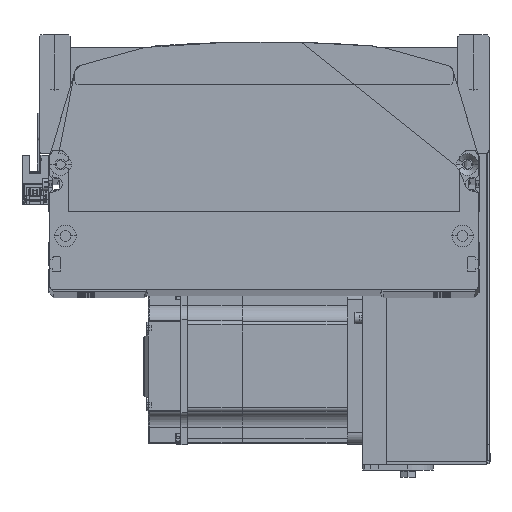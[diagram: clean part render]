
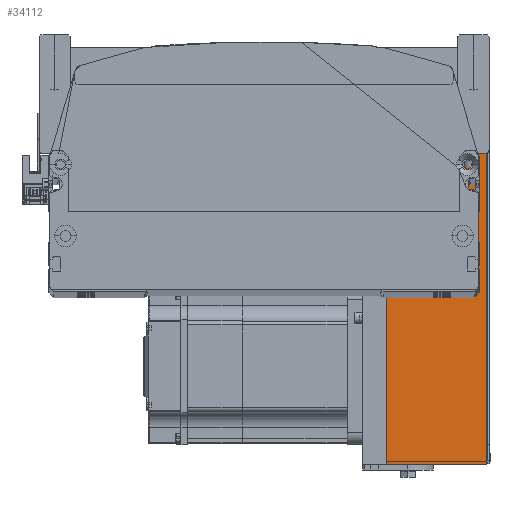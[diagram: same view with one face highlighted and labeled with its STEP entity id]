
A CAD part, top view. The second image highlights one B-rep face of the part: STEP entity #34112.
In plain terms, the highlighted planar face has unit normal (0, 0, 1) as drawn and (0, 1, 0) by its records, which use the part's own axes.
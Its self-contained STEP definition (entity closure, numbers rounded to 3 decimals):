
#154 = CARTESIAN_POINT ( 'NONE',  ( 102.5, 54., 63.3 ) ) ;
#2196 = CARTESIAN_POINT ( 'NONE',  ( 102.5, 54., 63.3 ) ) ;
#2503 = LINE ( 'NONE', #46634, #18907 ) ;
#3593 = EDGE_CURVE ( 'NONE', #27088, #20594, #40563, .T. ) ;
#3618 = AXIS2_PLACEMENT_3D ( 'NONE', #32620, #36577, #48758 ) ;
#4337 = FACE_OUTER_BOUND ( 'NONE', #47153, .T. ) ;
#4644 = ORIENTED_EDGE ( 'NONE', *, *, #3593, .F. ) ;
#6640 = LINE ( 'NONE', #47347, #45616 ) ;
#7541 = EDGE_CURVE ( 'NONE', #20594, #43676, #6640, .T. ) ;
#9159 = CARTESIAN_POINT ( 'NONE',  ( -102.5, 54., 12. ) ) ;
#11117 = DIRECTION ( 'NONE',  ( 0., 0., -1. ) ) ;
#15321 = ORIENTED_EDGE ( 'NONE', *, *, #33851, .T. ) ;
#18843 = ORIENTED_EDGE ( 'NONE', *, *, #7541, .F. ) ;
#18907 = VECTOR ( 'NONE', #38191, 1000. ) ;
#20594 = VERTEX_POINT ( 'NONE', #40754 ) ;
#25813 = CARTESIAN_POINT ( 'NONE',  ( 102.5, 54., 12. ) ) ;
#27088 = VERTEX_POINT ( 'NONE', #154 ) ;
#28456 = VECTOR ( 'NONE', #33937, 1000. ) ;
#32620 = CARTESIAN_POINT ( 'NONE',  ( 0., 54., 63.8 ) ) ;
#33851 = EDGE_CURVE ( 'NONE', #51768, #43676, #2503, .T. ) ;
#33937 = DIRECTION ( 'NONE',  ( 0., 0., -1. ) ) ;
#34112 = ADVANCED_FACE ( 'NONE', ( #4337 ), #36326, .F. ) ;
#35484 = ORIENTED_EDGE ( 'NONE', *, *, #50572, .T. ) ;
#36326 = PLANE ( 'NONE',  #3618 ) ;
#36347 = DIRECTION ( 'NONE',  ( -1., 0., 0. ) ) ;
#36577 = DIRECTION ( 'NONE',  ( 0., -1., 0. ) ) ;
#38191 = DIRECTION ( 'NONE',  ( -1., 0., 0. ) ) ;
#39506 = CARTESIAN_POINT ( 'NONE',  ( -102.5, 54., 63.3 ) ) ;
#40563 = LINE ( 'NONE', #39506, #42344 ) ;
#40754 = CARTESIAN_POINT ( 'NONE',  ( -102.5, 54., 63.3 ) ) ;
#42344 = VECTOR ( 'NONE', #36347, 1000. ) ;
#42372 = LINE ( 'NONE', #2196, #28456 ) ;
#43676 = VERTEX_POINT ( 'NONE', #9159 ) ;
#45616 = VECTOR ( 'NONE', #11117, 1000. ) ;
#46634 = CARTESIAN_POINT ( 'NONE',  ( 0., 54., 12. ) ) ;
#47153 = EDGE_LOOP ( 'NONE', ( #4644, #35484, #15321, #18843 ) ) ;
#47347 = CARTESIAN_POINT ( 'NONE',  ( -102.5, 54., 63.3 ) ) ;
#48758 = DIRECTION ( 'NONE',  ( 0., 0., 1. ) ) ;
#50572 = EDGE_CURVE ( 'NONE', #27088, #51768, #42372, .T. ) ;
#51768 = VERTEX_POINT ( 'NONE', #25813 ) ;
